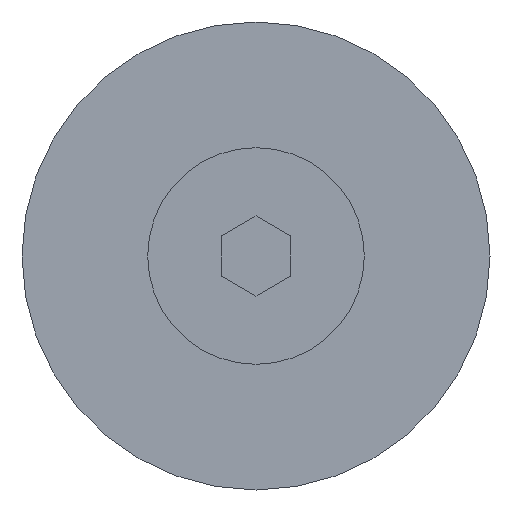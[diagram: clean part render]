
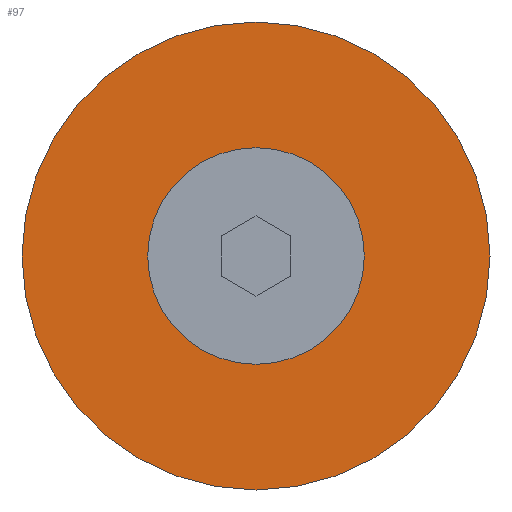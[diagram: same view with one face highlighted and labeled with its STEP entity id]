
A CAD part, front view. The second image highlights one B-rep face of the part: STEP entity #97.
In plain terms, the highlighted planar face has unit normal (0, -1, 0).
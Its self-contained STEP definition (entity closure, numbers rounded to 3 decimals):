
#97=ADVANCED_FACE('',(#166,#167),#168,.F.);
#166=FACE_OUTER_BOUND('',#259,.T.);
#167=FACE_BOUND('',#260,.T.);
#168=PLANE('',#261);
#259=EDGE_LOOP('',(#471,#472));
#260=EDGE_LOOP('',(#473,#474));
#261=AXIS2_PLACEMENT_3D('',#475,#476,#477);
#471=ORIENTED_EDGE('',*,*,#640,.T.);
#472=ORIENTED_EDGE('',*,*,#686,.T.);
#473=ORIENTED_EDGE('',*,*,#634,.F.);
#474=ORIENTED_EDGE('',*,*,#687,.F.);
#475=CARTESIAN_POINT('',(-27.,-14.0,0.0));
#476=DIRECTION('',(0.0,1.0,0.0));
#477=DIRECTION('',(1.0,0.0,-0.0));
#634=EDGE_CURVE('',#738,#739,#740,.T.);
#640=EDGE_CURVE('',#751,#749,#752,.T.);
#686=EDGE_CURVE('',#749,#751,#826,.T.);
#687=EDGE_CURVE('',#739,#738,#827,.T.);
#738=VERTEX_POINT('',#900);
#739=VERTEX_POINT('',#901);
#740=CIRCLE('',#902,12.5);
#749=VERTEX_POINT('',#913);
#751=VERTEX_POINT('',#916);
#752=CIRCLE('',#917,27.0);
#826=CIRCLE('',#1024,27.0);
#827=CIRCLE('',#1025,12.5);
#900=CARTESIAN_POINT('',(0.,-14.0,-12.5));
#901=CARTESIAN_POINT('',(0.,-14.0,12.5));
#902=AXIS2_PLACEMENT_3D('',#1124,#1125,#1126);
#913=CARTESIAN_POINT('',(0.,-14.0,27.0));
#916=CARTESIAN_POINT('',(0.,-14.0,-27.0));
#917=AXIS2_PLACEMENT_3D('',#1136,#1137,#1138);
#1024=AXIS2_PLACEMENT_3D('',#1208,#1209,#1210);
#1025=AXIS2_PLACEMENT_3D('',#1211,#1212,#1213);
#1124=CARTESIAN_POINT('',(0.,-14.0,0.0));
#1125=DIRECTION('',(0.0,-1.0,0.0));
#1126=DIRECTION('',(0.0,0.0,-1.0));
#1136=CARTESIAN_POINT('',(0.,-14.0,0.0));
#1137=DIRECTION('',(0.0,-1.0,0.0));
#1138=DIRECTION('',(0.0,0.0,-1.0));
#1208=CARTESIAN_POINT('',(0.,-14.0,0.0));
#1209=DIRECTION('',(0.0,-1.0,0.0));
#1210=DIRECTION('',(0.0,0.0,-1.0));
#1211=CARTESIAN_POINT('',(0.,-14.0,0.0));
#1212=DIRECTION('',(0.0,-1.0,0.0));
#1213=DIRECTION('',(0.0,0.0,-1.0));
